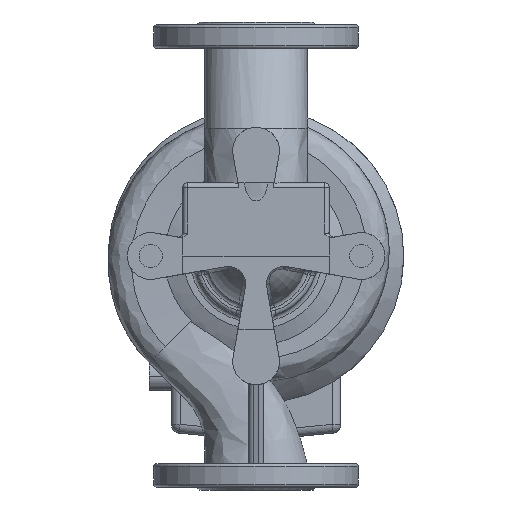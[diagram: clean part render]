
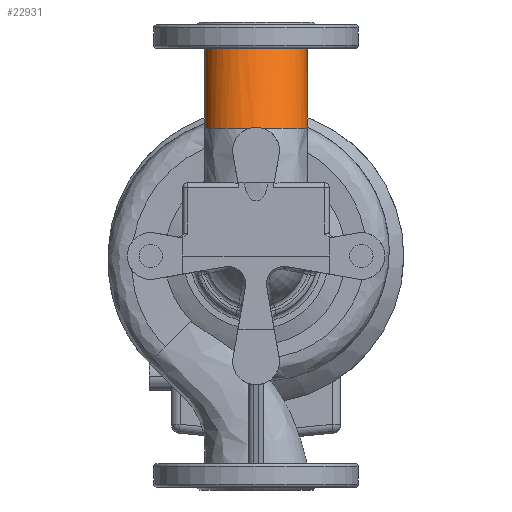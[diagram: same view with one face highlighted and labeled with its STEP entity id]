
A CAD part, front view. The second image highlights one B-rep face of the part: STEP entity #22931.
In plain terms, the highlighted free-form (B-spline) face has degree [3, 1] with [7, 2] control points.
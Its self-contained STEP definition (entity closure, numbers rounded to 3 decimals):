
#239 = CIRCLE ( 'NONE', #1082, 35. ) ;
#642 = CARTESIAN_POINT ( 'NONE',  ( -35., 0., 142. ) ) ;
#664 = ORIENTED_EDGE ( 'NONE', *, *, #21161, .T. ) ;
#704 = AXIS2_PLACEMENT_3D ( 'NONE', #3467, #4009, #8059 ) ;
#719 = EDGE_CURVE ( 'NONE', #13362, #10831, #239, .T. ) ;
#1082 = AXIS2_PLACEMENT_3D ( 'NONE', #15908, #7808, #16043 ) ;
#1178 = CARTESIAN_POINT ( 'NONE',  ( 1.38, -72.822, 87.956 ) ) ;
#1692 = CARTESIAN_POINT ( 'NONE',  ( 35., 70., 142. ) ) ;
#1829 = FACE_OUTER_BOUND ( 'NONE', #10462, .T. ) ;
#1990 = AXIS2_PLACEMENT_3D ( 'NONE', #9477, #25555, #17710 ) ;
#2391 = EDGE_CURVE ( 'NONE', #13362, #9121, #10892, .T. ) ;
#2858 = EDGE_CURVE ( 'NONE', #2881, #20772, #18611, .T. ) ;
#2881 = VERTEX_POINT ( 'NONE', #22756 ) ;
#3272 = EDGE_CURVE ( 'NONE', #2881, #9121, #14487, .T. ) ;
#3338 = CARTESIAN_POINT ( 'NONE',  ( -4.118, -72.946, 87.461 ) ) ;
#3443 = CARTESIAN_POINT ( 'NONE',  ( 35., -38.189, 87.461 ) ) ;
#3467 = CARTESIAN_POINT ( 'NONE',  ( 0., 0., 142. ) ) ;
#3575 = CARTESIAN_POINT ( 'NONE',  ( -35., 0., 142. ) ) ;
#4009 = DIRECTION ( 'NONE',  ( 0., 0., -1. ) ) ;
#4509 =( BOUNDED_SURFACE ( )  B_SPLINE_SURFACE ( 3, 1, ( 
 ( #22079, #22350 ),
 ( #24243, #10049 ),
 ( #13960, #1692 ),
 ( #3443, #9913 ),
 ( #5591, #14236 ),
 ( #18279, #18148 ),
 ( #12085, #3575 ) ),
 .UNSPECIFIED., .T., .F., .F. ) 
 B_SPLINE_SURFACE_WITH_KNOTS ( ( 4, 3, 4 ),
 ( 2, 2 ),
 ( 0., 0.5, 1. ),
 ( 0., 1. ),
 .UNSPECIFIED. ) 
 GEOMETRIC_REPRESENTATION_ITEM ( )  RATIONAL_B_SPLINE_SURFACE ( (
 ( 1., 1.),
 ( 0.333, 0.333),
 ( 0.333, 0.333),
 ( 1., 1.),
 ( 0.333, 0.333),
 ( 0.333, 0.333),
 ( 1., 1.) ) ) 
 REPRESENTATION_ITEM ( '' )  SURFACE ( )  );
#5226 = CARTESIAN_POINT ( 'NONE',  ( 4.118, -72.946, 87.461 ) ) ;
#5234 = B_SPLINE_CURVE_WITH_KNOTS ( 'NONE', 1,
 ( #25606, #642 ),
 .UNSPECIFIED., .F., .F.,
 ( 2, 2 ),
 ( 0., 1. ),
 .UNSPECIFIED. ) ;
#5485 = CARTESIAN_POINT ( 'NONE',  ( -2.768, -72.854, 87.82 ) ) ;
#5591 = CARTESIAN_POINT ( 'NONE',  ( 35., -108.189, 87.461 ) ) ;
#5937 = ORIENTED_EDGE ( 'NONE', *, *, #3272, .F. ) ;
#7780 = CARTESIAN_POINT ( 'NONE',  ( -1.401, -72.812, 87.999 ) ) ;
#7808 = DIRECTION ( 'NONE',  ( 0., 0., -1. ) ) ;
#8059 = DIRECTION ( 'NONE',  ( -1., 0., 0. ) ) ;
#9121 = VERTEX_POINT ( 'NONE', #26158 ) ;
#9477 = CARTESIAN_POINT ( 'NONE',  ( 0., -38.189, 87.461 ) ) ;
#9755 = CIRCLE ( 'NONE', #704, 35. ) ;
#9809 = CARTESIAN_POINT ( 'NONE',  ( 3.443, -72.9, 87.641 ) ) ;
#9913 = CARTESIAN_POINT ( 'NONE',  ( 35., 0., 142. ) ) ;
#10049 = CARTESIAN_POINT ( 'NONE',  ( -35., 70., 142. ) ) ;
#10462 = EDGE_LOOP ( 'NONE', ( #5937, #20931, #664, #24703, #19084, #10493 ) ) ;
#10493 = ORIENTED_EDGE ( 'NONE', *, *, #2391, .T. ) ;
#10831 = VERTEX_POINT ( 'NONE', #21125 ) ;
#10892 = B_SPLINE_CURVE_WITH_KNOTS ( 'NONE', 3,
 ( #3338, #5485, #7780, #23864, #1178, #15884, #9809, #5226 ),
 .UNSPECIFIED., .F., .F.,
 ( 4, 2, 2, 4 ),
 ( 0., 0.004, 0.006, 0.008 ),
 .UNSPECIFIED. ) ;
#11402 = CARTESIAN_POINT ( 'NONE',  ( 35., -38.189, 87.461 ) ) ;
#12085 = CARTESIAN_POINT ( 'NONE',  ( -35., -38.189, 87.461 ) ) ;
#12821 = EDGE_CURVE ( 'NONE', #10831, #22056, #5234, .T. ) ;
#13362 = VERTEX_POINT ( 'NONE', #16571 ) ;
#13960 = CARTESIAN_POINT ( 'NONE',  ( 35., 31.811, 87.461 ) ) ;
#14236 = CARTESIAN_POINT ( 'NONE',  ( 35., -70., 142. ) ) ;
#14423 = CARTESIAN_POINT ( 'NONE',  ( 35., 0., 142. ) ) ;
#14487 = CIRCLE ( 'NONE', #1990, 35. ) ;
#15314 = CARTESIAN_POINT ( 'NONE',  ( 35., 0., 142. ) ) ;
#15884 = CARTESIAN_POINT ( 'NONE',  ( 2.761, -72.866, 87.775 ) ) ;
#15908 = CARTESIAN_POINT ( 'NONE',  ( 0., -38.189, 87.461 ) ) ;
#16043 = DIRECTION ( 'NONE',  ( -1., 0., 0. ) ) ;
#16571 = CARTESIAN_POINT ( 'NONE',  ( -4.118, -72.946, 87.461 ) ) ;
#16971 = CARTESIAN_POINT ( 'NONE',  ( -35., 0., 142. ) ) ;
#17710 = DIRECTION ( 'NONE',  ( -1., 0., 0. ) ) ;
#18148 = CARTESIAN_POINT ( 'NONE',  ( -35., -70., 142. ) ) ;
#18279 = CARTESIAN_POINT ( 'NONE',  ( -35., -108.189, 87.461 ) ) ;
#18611 = B_SPLINE_CURVE_WITH_KNOTS ( 'NONE', 1,
 ( #11402, #15314 ),
 .UNSPECIFIED., .F., .F.,
 ( 2, 2 ),
 ( 0., 1. ),
 .UNSPECIFIED. ) ;
#19084 = ORIENTED_EDGE ( 'NONE', *, *, #719, .F. ) ;
#20772 = VERTEX_POINT ( 'NONE', #14423 ) ;
#20931 = ORIENTED_EDGE ( 'NONE', *, *, #2858, .T. ) ;
#21125 = CARTESIAN_POINT ( 'NONE',  ( -35., -38.189, 87.461 ) ) ;
#21161 = EDGE_CURVE ( 'NONE', #20772, #22056, #9755, .T. ) ;
#22056 = VERTEX_POINT ( 'NONE', #16971 ) ;
#22079 = CARTESIAN_POINT ( 'NONE',  ( -35., -38.189, 87.461 ) ) ;
#22350 = CARTESIAN_POINT ( 'NONE',  ( -35., 0., 142. ) ) ;
#22756 = CARTESIAN_POINT ( 'NONE',  ( 35., -38.189, 87.461 ) ) ;
#22931 = ADVANCED_FACE ( 'NONE', ( #1829 ), #4509, .F. ) ;
#23864 = CARTESIAN_POINT ( 'NONE',  ( 0.679, -72.811, 88.001 ) ) ;
#24243 = CARTESIAN_POINT ( 'NONE',  ( -35., 31.811, 87.461 ) ) ;
#24703 = ORIENTED_EDGE ( 'NONE', *, *, #12821, .F. ) ;
#25555 = DIRECTION ( 'NONE',  ( 0., 0., -1. ) ) ;
#25606 = CARTESIAN_POINT ( 'NONE',  ( -35., -38.189, 87.461 ) ) ;
#26158 = CARTESIAN_POINT ( 'NONE',  ( 4.118, -72.946, 87.461 ) ) ;
